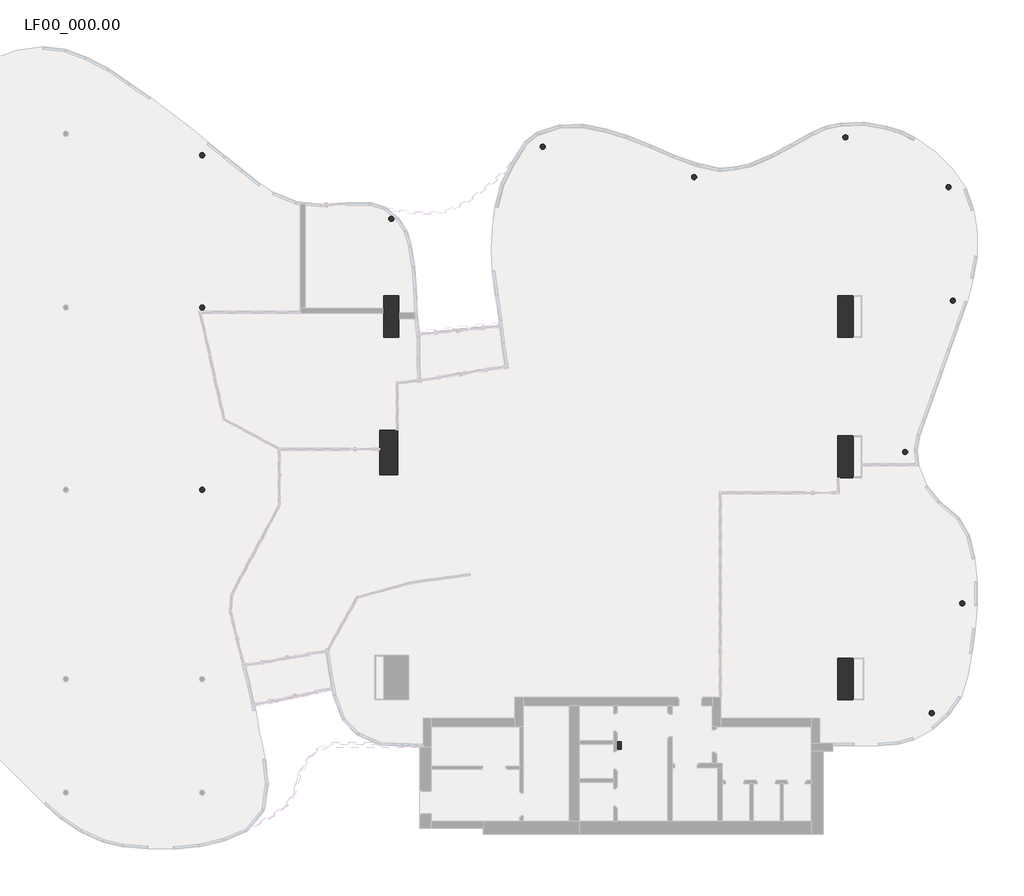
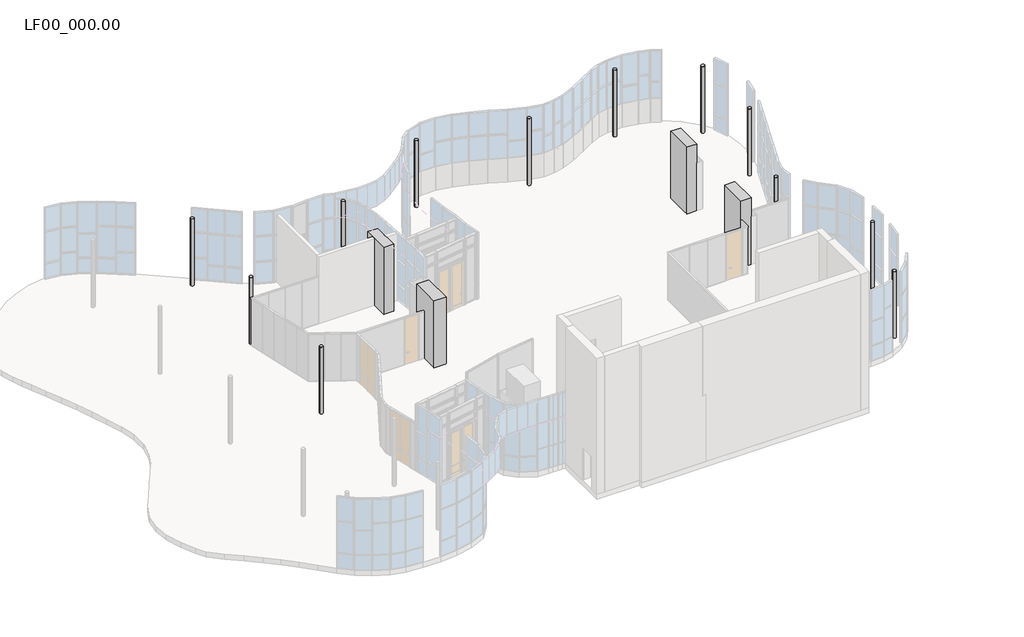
# One storey, part 7 of 8: 18 columns.
"""IFC4 building model written with IfcOpenShell, lengths in millimetres."""

from ifc_helpers import new_model, si_unit, origin, origin_with_axes, place, context, project, spatial, polyline, outline, extrude, transform, mapped, element, save
from components import pilastro_in_calcestruzzo_circolare_200_a869e825, pilastro_in_calcestruzzo_rettangolare_504901c2, pilastro_in_calcestruzzo_rettangolare_29_x_16_73a5d9ca, pilastro_in_calcestruzzo_rettangolare_60_x_1_65_b7474bd0

model = new_model("IFC4")

# Units and contexts
model_context = context("Model", 3, world=origin())
ifc_project = project(units=[si_unit("LENGTHUNIT", "METRE", prefix="MILLI")], contexts=[model_context])

# Site, building, storey
site = spatial("IfcSite", under=ifc_project)
building = spatial("IfcBuilding", under=site)
storey = spatial("IfcBuildingStorey", under=building, Name="LF00_000.00", Elevation=0.0)

# Columns
placement = place(None, origin())
pilastro_in_calcestruzzo_circolare_200_shape = pilastro_in_calcestruzzo_circolare_200_a869e825(model_context)
element("IfcColumn", 1, ObjectType="Pilastro in calcestruzzo - Circolare : 200", at=placement, inside=storey, context=model_context, shape_type="MappedRepresentation", body=[
    mapped(pilastro_in_calcestruzzo_circolare_200_shape, transform((-94026.6333795, 23577.1402086, 0.0), x_axis=(1.0, 0.0, 0.0), y_axis=(0.0, 1.0, 0.0), z_axis=(0.0, 0.0, 1.0))),
])
element("IfcColumn", 2, ObjectType="Pilastro in calcestruzzo - Circolare : 200", at=placement, inside=storey, context=model_context, shape_type="MappedRepresentation", body=[
    mapped(pilastro_in_calcestruzzo_circolare_200_shape, transform((-86526.2134558, 21057.4622944, 0.0), x_axis=(1.0, 0.0, 0.0), y_axis=(0.0, 1.0, 0.0), z_axis=(0.0, 0.0, 1.0))),
])
element("IfcColumn", 3, ObjectType="Pilastro in calcestruzzo - Circolare : 200", at=placement, inside=storey, context=model_context, shape_type="MappedRepresentation", body=[
    mapped(pilastro_in_calcestruzzo_circolare_200_shape, transform((-94026.0072009, 17543.4210334, 0.0), x_axis=(1.0, 0.0, 0.0), y_axis=(0.0, 1.0, 0.0), z_axis=(0.0, 0.0, 1.0))),
])
element("IfcColumn", 4, ObjectType="Pilastro in calcestruzzo - Circolare : 200", at=placement, inside=storey, context=model_context, shape_type="MappedRepresentation", body=[
    mapped(pilastro_in_calcestruzzo_circolare_200_shape, transform((-94026.6333795, 10316.2342028, 0.0), x_axis=(1.0, 0.0, 0.0), y_axis=(0.0, 1.0, 0.0), z_axis=(0.0, 0.0, 1.0))),
])
element("IfcColumn", 5, ObjectType="Pilastro in calcestruzzo - Circolare : 200", at=placement, inside=storey, context=model_context, shape_type="MappedRepresentation", body=[
    mapped(pilastro_in_calcestruzzo_circolare_200_shape, transform((-65106.755748, 1466.2954427, 0.0), x_axis=(1.0, 0.0, 0.0), y_axis=(0.0, 1.0, 0.0), z_axis=(0.0, 0.0, 1.0))),
])
element("IfcColumn", 6, ObjectType="Pilastro in calcestruzzo - Circolare : 200", at=placement, inside=storey, context=model_context, shape_type="MappedRepresentation", body=[
    mapped(pilastro_in_calcestruzzo_circolare_200_shape, transform((-63897.2620575, 5816.2462208, 0.0), x_axis=(1.0, 0.0, 0.0), y_axis=(0.0, 1.0, 0.0), z_axis=(0.0, 0.0, 1.0))),
])
element("IfcColumn", 7, ObjectType="Pilastro in calcestruzzo - Circolare : 200", at=placement, inside=storey, context=model_context, shape_type="MappedRepresentation", body=[
    mapped(pilastro_in_calcestruzzo_circolare_200_shape, transform((-66162.9661259, 11816.2458562, 0.0), x_axis=(1.0, 0.0, 0.0), y_axis=(0.0, 1.0, 0.0), z_axis=(0.0, 0.0, 1.0))),
])
element("IfcColumn", 8, ObjectType="Pilastro in calcestruzzo - Circolare : 200", at=placement, inside=storey, context=model_context, shape_type="MappedRepresentation", body=[
    mapped(pilastro_in_calcestruzzo_circolare_200_shape, transform((-64267.4544347, 17816.2462149, 0.0), x_axis=(1.0, 0.0, 0.0), y_axis=(0.0, 1.0, 0.0), z_axis=(0.0, 0.0, 1.0))),
])
element("IfcColumn", 9, ObjectType="Pilastro in calcestruzzo - Circolare : 200", at=placement, inside=storey, context=model_context, shape_type="MappedRepresentation", body=[
    mapped(pilastro_in_calcestruzzo_circolare_200_shape, transform((-64442.1939745, 22316.2461169, 0.0), x_axis=(1.0, 0.0, 0.0), y_axis=(0.0, 1.0, 0.0), z_axis=(0.0, 0.0, 1.0))),
])
element("IfcColumn", 10, ObjectType="Pilastro in calcestruzzo - Circolare : 200", at=placement, inside=storey, context=model_context, shape_type="MappedRepresentation", body=[
    mapped(pilastro_in_calcestruzzo_circolare_200_shape, transform((-68526.2133795, 24287.996364, 0.0), x_axis=(1.0, 0.0, 0.0), y_axis=(0.0, 1.0, 0.0), z_axis=(0.0, 0.0, 1.0))),
])
element("IfcColumn", 11, ObjectType="Pilastro in calcestruzzo - Circolare : 200", at=placement, inside=storey, context=model_context, shape_type="MappedRepresentation", body=[
    mapped(pilastro_in_calcestruzzo_circolare_200_shape, transform((-74526.2148919, 22714.4252424, 0.0), x_axis=(1.0, 0.0, 0.0), y_axis=(0.0, 1.0, 0.0), z_axis=(0.0, 0.0, 1.0))),
])
element("IfcColumn", 12, ObjectType="Pilastro in calcestruzzo - Circolare : 200", at=placement, inside=storey, context=model_context, shape_type="MappedRepresentation", body=[
    mapped(pilastro_in_calcestruzzo_circolare_200_shape, transform((-80526.2153225, 23917.538761, 0.0), x_axis=(1.0, 0.0, 0.0), y_axis=(0.0, 1.0, 0.0), z_axis=(0.0, 0.0, 1.0))),
])
pilastro_in_calcestruzzo_rettangolare_shape = pilastro_in_calcestruzzo_rettangolare_504901c2(model_context)
element("IfcColumn", 13, ObjectType="Pilastro in calcestruzzo - Rettangolare : 72*176", at=placement, inside=storey, context=model_context, shape_type="MappedRepresentation", body=[
    mapped(pilastro_in_calcestruzzo_rettangolare_shape, transform((-86631.1459231, 11796.1366691, 0.0), x_axis=(1.0, 0.0, 0.0), y_axis=(0.0, 1.0, 0.0), z_axis=(0.0, 0.0, 1.0))),
])
pilastro_in_calcestruzzo_rettangolare_29_x_16_shape = pilastro_in_calcestruzzo_rettangolare_29_x_16_73a5d9ca(model_context)
element("IfcColumn", 14, ObjectType="Pilastro in calcestruzzo - Rettangolare : 29 x 16", at=placement, inside=storey, context=model_context, shape_type="MappedRepresentation", body=[
    mapped(pilastro_in_calcestruzzo_rettangolare_29_x_16_shape, transform((-77487.4250396, 178.401192, 0.0), x_axis=(1.0, 0.0, 0.0), y_axis=(0.0, 1.0, 0.0), z_axis=(0.0, 0.0, 1.0))),
])
element("IfcColumn", 15, ObjectType="Pilastro in calcestruzzo - Rettangolare : 60 x 1.65", at=placement, inside=storey, context=model_context, shape_type="SweptSolid", body=[
    extrude(outline(polyline([(-68226.4248066, 18016.2461654), (-68226.4248066, 16366.2461654), (-68826.4248066, 16366.2461654), (-68826.4248066, 18016.2461654), (-68226.4248066, 18016.2461654)])), origin_with_axes(), (0.0, 0.0, 1.0), 4200.0),
])
pilastro_in_calcestruzzo_rettangolare_60_x_1_65_shape = pilastro_in_calcestruzzo_rettangolare_60_x_1_65_b7474bd0(model_context)
element("IfcColumn", 16, ObjectType="Pilastro in calcestruzzo - Rettangolare : 60 x 1.65", at=placement, inside=storey, context=model_context, shape_type="MappedRepresentation", body=[
    mapped(pilastro_in_calcestruzzo_rettangolare_60_x_1_65_shape, transform((-68526.4248066, 2824.3949739, 0.0), x_axis=(1.0, 0.0, 0.0), y_axis=(0.0, 1.0, 0.0), z_axis=(0.0, 0.0, 1.0))),
])
element("IfcColumn", 17, ObjectType="Pilastro in calcestruzzo - Rettangolare : 60 x 1.65", at=placement, inside=storey, context=model_context, shape_type="MappedRepresentation", body=[
    mapped(pilastro_in_calcestruzzo_rettangolare_60_x_1_65_shape, transform((-68526.4250396, 11628.401192, 0.0), x_axis=(1.0, 0.0, 0.0), y_axis=(0.0, 1.0, 0.0), z_axis=(0.0, 0.0, 1.0))),
])
element("IfcColumn", 18, ObjectType="Pilastro in calcestruzzo - Rettangolare : 60 x 1.65", at=placement, inside=storey, context=model_context, shape_type="MappedRepresentation", body=[
    mapped(pilastro_in_calcestruzzo_rettangolare_60_x_1_65_shape, transform((-86526.4250396, 17191.2461654, 0.0), x_axis=(1.0, 0.0, 0.0), y_axis=(0.0, 1.0, 0.0), z_axis=(0.0, 0.0, 1.0))),
])

save(model, "model.ifc")
